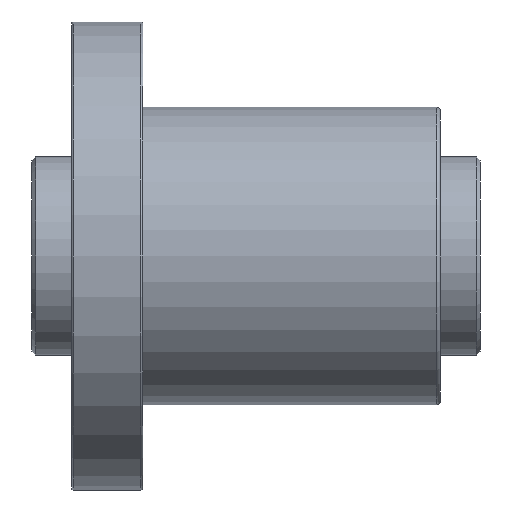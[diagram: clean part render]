
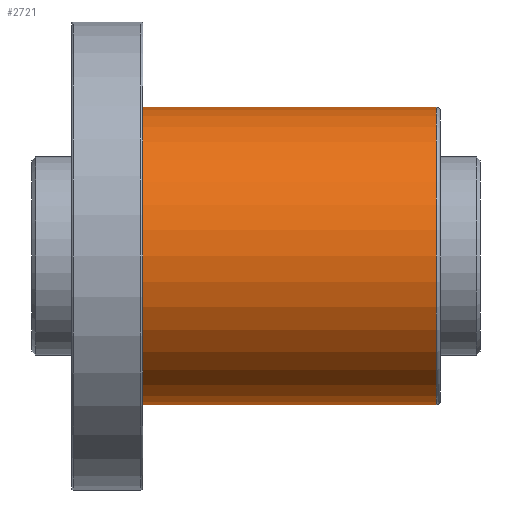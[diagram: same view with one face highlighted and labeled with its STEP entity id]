
A CAD part, front view. The second image highlights one B-rep face of the part: STEP entity #2721.
In plain terms, the highlighted cylindrical face has radius 37.5 mm (diameter 75 mm), a partial arc.
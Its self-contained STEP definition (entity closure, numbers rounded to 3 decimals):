
#59 = CIRCLE ( 'NONE', #3355, 37.5 ) ;
#70 = EDGE_CURVE ( 'NONE', #2575, #1464, #2859, .T. ) ;
#149 = DIRECTION ( 'NONE',  ( -1., 0., 0. ) ) ;
#168 = DIRECTION ( 'NONE',  ( 0., 0., 1. ) ) ;
#189 = AXIS2_PLACEMENT_3D ( 'NONE', #1069, #149, #1432 ) ;
#277 = VECTOR ( 'NONE', #853, 1000. ) ;
#319 = EDGE_LOOP ( 'NONE', ( #3705, #3665, #3890, #2460 ) ) ;
#386 = VECTOR ( 'NONE', #2107, 1000. ) ;
#537 = CYLINDRICAL_SURFACE ( 'NONE', #189, 37.5 ) ;
#639 = EDGE_CURVE ( 'NONE', #1464, #2572, #753, .T. ) ;
#753 = LINE ( 'NONE', #3014, #277 ) ;
#768 = CARTESIAN_POINT ( 'NONE',  ( 18., 0., -37.5 ) ) ;
#774 = CARTESIAN_POINT ( 'NONE',  ( 92., 0., 0. ) ) ;
#853 = DIRECTION ( 'NONE',  ( -1., 0., 0. ) ) ;
#936 = CARTESIAN_POINT ( 'NONE',  ( 92., 0., 37.5 ) ) ;
#1037 = DIRECTION ( 'NONE',  ( 0., 0., -1. ) ) ;
#1050 = AXIS2_PLACEMENT_3D ( 'NONE', #774, #1082, #1037 ) ;
#1067 = CARTESIAN_POINT ( 'NONE',  ( 93., 0., -37.5 ) ) ;
#1069 = CARTESIAN_POINT ( 'NONE',  ( 93., 0., 0. ) ) ;
#1082 = DIRECTION ( 'NONE',  ( -1., 0., 0. ) ) ;
#1432 = DIRECTION ( 'NONE',  ( 0., 0., 1. ) ) ;
#1464 = VERTEX_POINT ( 'NONE', #936 ) ;
#1578 = CARTESIAN_POINT ( 'NONE',  ( 18., 0., 37.5 ) ) ;
#1646 = VERTEX_POINT ( 'NONE', #768 ) ;
#1655 = FACE_OUTER_BOUND ( 'NONE', #319, .T. ) ;
#2018 = DIRECTION ( 'NONE',  ( -1., 0., 0. ) ) ;
#2107 = DIRECTION ( 'NONE',  ( -1., 0., 0. ) ) ;
#2233 = EDGE_CURVE ( 'NONE', #1646, #2572, #59, .T. ) ;
#2460 = ORIENTED_EDGE ( 'NONE', *, *, #2233, .F. ) ;
#2572 = VERTEX_POINT ( 'NONE', #1578 ) ;
#2575 = VERTEX_POINT ( 'NONE', #2933 ) ;
#2721 = ADVANCED_FACE ( 'NONE', ( #1655 ), #537, .T. ) ;
#2859 = CIRCLE ( 'NONE', #1050, 37.5 ) ;
#2925 = EDGE_CURVE ( 'NONE', #2575, #1646, #3333, .T. ) ;
#2933 = CARTESIAN_POINT ( 'NONE',  ( 92., 0., -37.5 ) ) ;
#3014 = CARTESIAN_POINT ( 'NONE',  ( 93., 0., 37.5 ) ) ;
#3333 = LINE ( 'NONE', #1067, #386 ) ;
#3355 = AXIS2_PLACEMENT_3D ( 'NONE', #3904, #2018, #168 ) ;
#3665 = ORIENTED_EDGE ( 'NONE', *, *, #70, .T. ) ;
#3705 = ORIENTED_EDGE ( 'NONE', *, *, #2925, .F. ) ;
#3890 = ORIENTED_EDGE ( 'NONE', *, *, #639, .T. ) ;
#3904 = CARTESIAN_POINT ( 'NONE',  ( 18., 0., 0. ) ) ;
